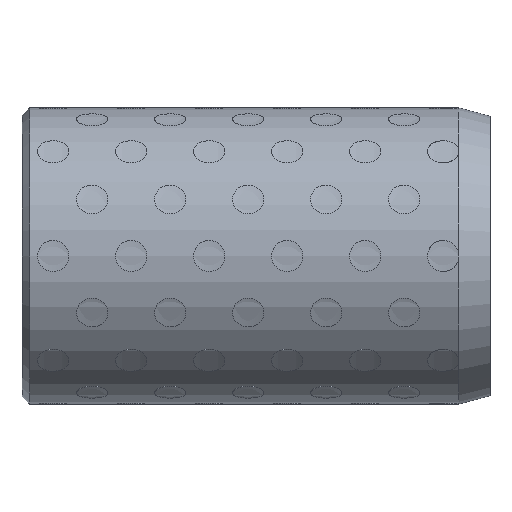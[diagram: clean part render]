
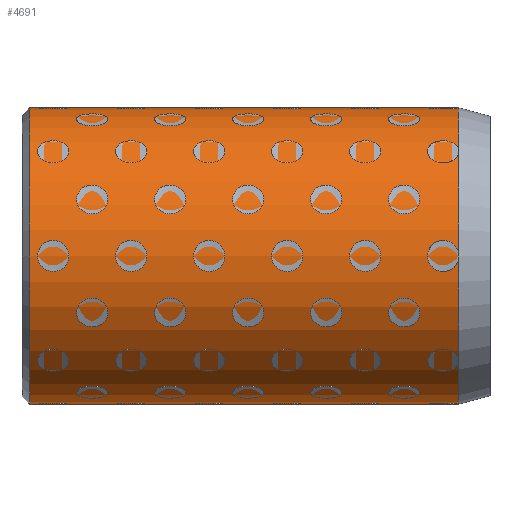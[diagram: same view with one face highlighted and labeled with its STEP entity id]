
A CAD part, left-side view. The second image highlights one B-rep face of the part: STEP entity #4691.
In plain terms, the highlighted cylindrical face has radius 19 mm (diameter 38 mm), a full revolution.
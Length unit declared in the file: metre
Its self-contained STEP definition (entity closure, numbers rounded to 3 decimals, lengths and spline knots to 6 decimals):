
#4691 = ADVANCED_FACE( '', ( #5001, #5002 ), #5003, .T. );
#5001 = FACE_OUTER_BOUND( '', #5697, .T. );
#5002 = FACE_OUTER_BOUND( '', #5698, .T. );
#5003 = CYLINDRICAL_SURFACE( '', #5699, 0.019 );
#5697 = EDGE_LOOP( '', ( #6405 ) );
#5698 = EDGE_LOOP( '', ( #6406 ) );
#5699 = AXIS2_PLACEMENT_3D( '', #6407, #6408, #6409 );
#6405 = ORIENTED_EDGE( '', *, *, #7670, .T. );
#6406 = ORIENTED_EDGE( '', *, *, #7669, .F. );
#6407 = CARTESIAN_POINT( '', ( 0., 0., 0. ) );
#6408 = DIRECTION( '', ( 0., 1., 0. ) );
#6409 = DIRECTION( '', ( 0., 0., -1. ) );
#7669 = EDGE_CURVE( '', #7875, #7875, #7876, .T. );
#7670 = EDGE_CURVE( '', #7877, #7877, #7878, .T. );
#7875 = VERTEX_POINT( '', #8275 );
#7876 = CIRCLE( '', #8276, 0.019 );
#7877 = VERTEX_POINT( '', #8277 );
#7878 = CIRCLE( '', #8278, 0.019 );
#8275 = CARTESIAN_POINT( '', ( 0., 0.004, -0.019 ) );
#8276 = AXIS2_PLACEMENT_3D( '', #18857, #18858, #18859 );
#8277 = CARTESIAN_POINT( '', ( 0., 0.059, -0.019 ) );
#8278 = AXIS2_PLACEMENT_3D( '', #18860, #18861, #18862 );
#18857 = CARTESIAN_POINT( '', ( 0., 0.004, 0. ) );
#18858 = DIRECTION( '', ( 0., -1., 0. ) );
#18859 = DIRECTION( '', ( 0., 0., -1. ) );
#18860 = CARTESIAN_POINT( '', ( 0., 0.059, 0. ) );
#18861 = DIRECTION( '', ( 0., -1., 0. ) );
#18862 = DIRECTION( '', ( 0., 0., -1. ) );
